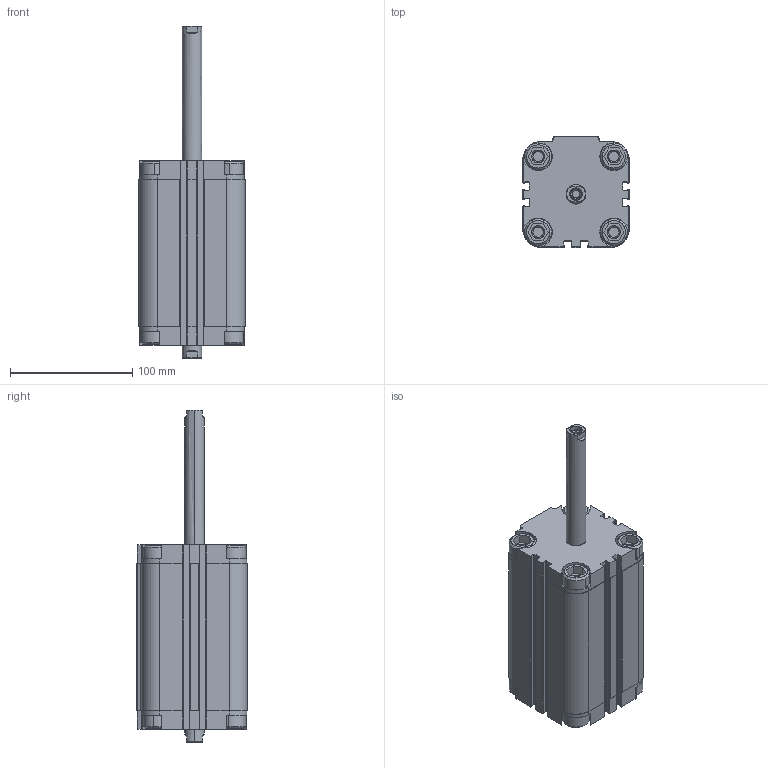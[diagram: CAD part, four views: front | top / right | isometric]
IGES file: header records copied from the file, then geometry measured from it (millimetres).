
Start section: SolidWorks IGES file using analytic representation for surfaces
Global section: file name: K:\Disegni Esecutivi\Cilindri\2_DISEGNI_cilindri_in_produzione\5_Cilindri Compatti\complessivicompatti\QJ\QJ063\QJ063PARTI\QJ063_IGES\QJ0630100A.igs; native system: SolidWorks 2011; preprocessor: SolidWorks 2011; author: Cad01; date: 110922.111309; units: millimetre
Bounding box: 87 x 91 x 272 mm (x, y, z)
Surface area: 96664.2 mm2 (no closed solid volume)
Topology: 0 solids, 0 shells, 442 faces, 5006 edges, 5006 vertices
Faces by surface type: bspline 240, revolution 202
